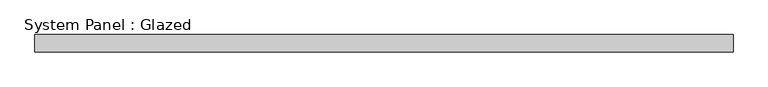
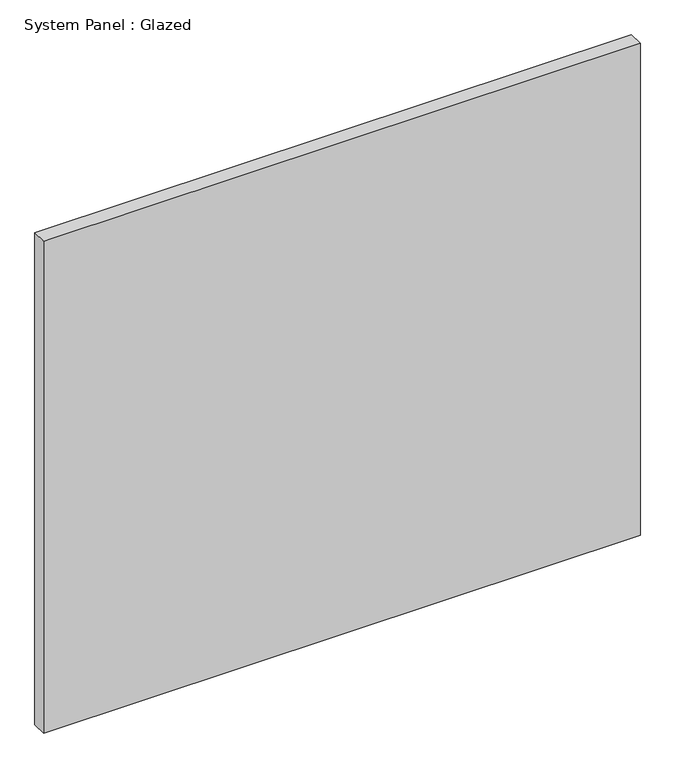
"""IFC4 building model written with IfcOpenShell, lengths in millimetres: plate geometry, System Panel : Glazed."""

from ifc_helpers import new_model, si_unit, origin, origin_with_axes, place, context, project, spatial, polyline, outline, extrude, source, transform, mapped, element, save


def system_panel_glazed_2bbda6d5(model_context):
    return source(origin(), model_context, "Body", "SweptSolid", [
        extrude(outline(polyline([(501.3420756, 24.5), (-501.3420756, 24.5), (-501.3420756, 49.5), (501.3420756, 49.5), (501.3420756, 24.5)])), origin_with_axes(), (0.0, 0.0, 1.0), 873.427975),
    ])


if __name__ == "__main__":
    model = new_model("IFC4")
    model_context = context("Model", 3, world=origin())
    ifc_project = project(units=[si_unit("LENGTHUNIT", "METRE", prefix="MILLI")], contexts=[model_context])
    site = spatial("IfcSite", under=ifc_project)
    building = spatial("IfcBuilding", under=site)
    placement = place(None, origin())
    system_panel_glazed_shape = system_panel_glazed_2bbda6d5(model_context)
    element("IfcPlate", 1, ObjectType="System Panel : Glazed", at=placement, inside=building, context=model_context, shape_type="MappedRepresentation", body=[
        mapped(system_panel_glazed_shape, transform((0.0, 0.0, 0.0), x_axis=(1.0, 0.0, 0.0), y_axis=(0.0, 1.0, 0.0), z_axis=(0.0, 0.0, 1.0))),
    ])
    save(model, "model.ifc")
